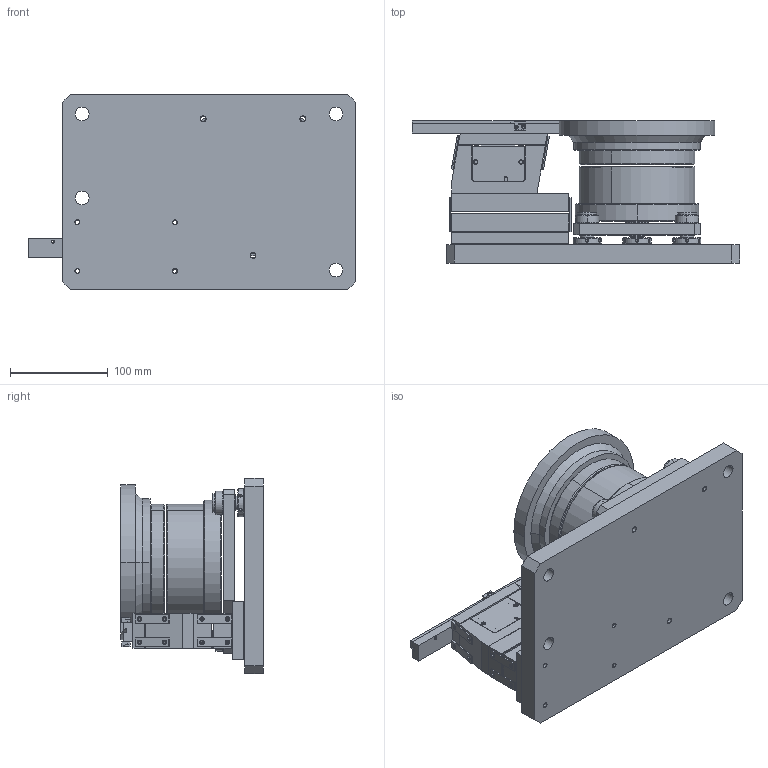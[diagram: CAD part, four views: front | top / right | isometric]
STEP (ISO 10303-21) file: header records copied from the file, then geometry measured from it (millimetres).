
FILE_DESCRIPTION((''),'2;1');
FILE_NAME('G_ASM','2021-09-02T10:26:08',('Administrator'),(''),'CREO PARAMETRIC BY PTC INC, 2020154','CREO PARAMETRIC BY PTC INC, 2020154','');
FILE_SCHEMA(('CONFIG_CONTROL_DESIGN'));
Length unit declared in the file: millimetre
Products named in the file (30): G1; BU120-1; BU120-2; BU120-3; BU120-4; BU140-20; BU140-21; BU140-22; BU140_5_ASM; BU120_ASM; B160; LT1; LT2; LT3; DS-P1; LT_ASM; LF100C-1; LF100C-2; SPRING35-9; LF100C-3; EM35-15-24_5; EM35-15-I; LF100C-15; LF100C_V_ASM; LF100C-10; LF100B-11; LF100C-12; LF100B_B_ASM; LF100B_ASM; G_ASM
Assembly tree (41 placements, depth 4):
  G_ASM
    G1
    BU120_ASM
      BU120-1
      BU120-2
      BU120-3
      BU120-4
      BU140_5_ASM  x3
        BU140-20
        BU140-21
        BU140-22
    B160
    LT_ASM
      LT1
      LT2
      LT3
      DS-P1  x2
    LF100B_ASM
      LF100C_V_ASM
        LF100C-1
        LF100C-2
        SPRING35-9  x4
        LF100C-3  x2
        EM35-15-24_5
        EM35-15-I
        LF100C-15  x2
      LF100B_B_ASM
        LF100C-10
        LF100B-11
        LF100C-12
        SPRING35-9  x4
Bounding box: 335 x 146 x 200 mm (x, y, z)
Volume: 2716066.6 mm3; surface area: 501100.6 mm2
Topology: 39 solids, 100 shells, 965 faces, 2387 edges, 1530 vertices
Faces by surface type: cylinder 492, plane 335, cone 138
Entity records: 22291 total; most frequent: DIRECTION 4157, CARTESIAN_POINT 4023, ORIENTED_EDGE 3182, EDGE_CURVE 1713, AXIS2_PLACEMENT_3D 1652, VERTEX_POINT 1138, EDGE_LOOP 901, VECTOR 853
